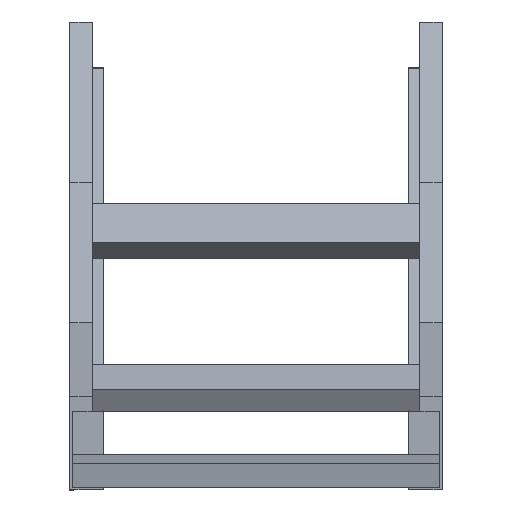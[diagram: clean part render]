
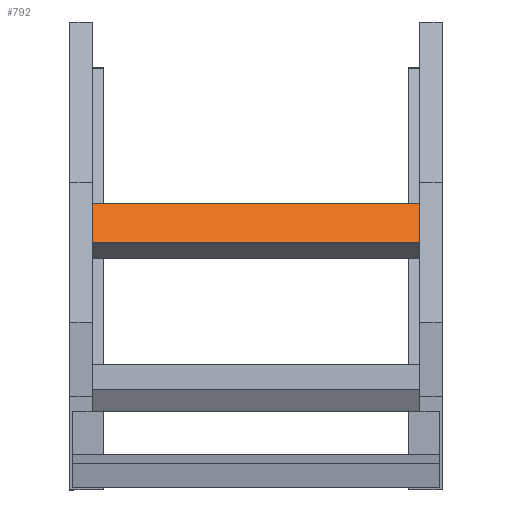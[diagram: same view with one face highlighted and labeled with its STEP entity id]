
A CAD part, top view. The second image highlights one B-rep face of the part: STEP entity #792.
In plain terms, the highlighted planar face has unit normal (0, 0.643, 0.766) as drawn and (0, 1, 0) by its records, which use the part's own axes.
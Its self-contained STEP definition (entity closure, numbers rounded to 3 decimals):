
#10 = DIRECTION ( 'NONE',  ( -1., 0., 0. ) ) ;
#64 = CARTESIAN_POINT ( 'NONE',  ( 148., 20., 20.25 ) ) ;
#120 = EDGE_CURVE ( 'NONE', #953, #543, #509, .T. ) ;
#138 = FACE_OUTER_BOUND ( 'NONE', #353, .T. ) ;
#172 = LINE ( 'NONE', #64, #1293 ) ;
#301 = EDGE_CURVE ( 'NONE', #1117, #1095, #172, .T. ) ;
#336 = DIRECTION ( 'NONE',  ( -1., 0., 0. ) ) ;
#353 = EDGE_LOOP ( 'NONE', ( #1475, #373, #1250, #824 ) ) ;
#373 = ORIENTED_EDGE ( 'NONE', *, *, #811, .F. ) ;
#458 = LINE ( 'NONE', #1526, #1008 ) ;
#484 = CARTESIAN_POINT ( 'NONE',  ( 148., 20., 20.25 ) ) ;
#493 = CARTESIAN_POINT ( 'NONE',  ( -148., 20., 20.25 ) ) ;
#509 = LINE ( 'NONE', #493, #1613 ) ;
#543 = VERTEX_POINT ( 'NONE', #1597 ) ;
#560 = CARTESIAN_POINT ( 'NONE',  ( 148., 20., 20.25 ) ) ;
#663 = LINE ( 'NONE', #1335, #768 ) ;
#690 = PLANE ( 'NONE',  #1515 ) ;
#768 = VECTOR ( 'NONE', #10, 1000. ) ;
#792 = ADVANCED_FACE ( 'NONE', ( #138 ), #690, .F. ) ;
#811 = EDGE_CURVE ( 'NONE', #1095, #543, #663, .T. ) ;
#814 = DIRECTION ( 'NONE',  ( 0., 0., -1. ) ) ;
#824 = ORIENTED_EDGE ( 'NONE', *, *, #945, .T. ) ;
#837 = CARTESIAN_POINT ( 'NONE',  ( 148., 20., -20.25 ) ) ;
#945 = EDGE_CURVE ( 'NONE', #1117, #953, #458, .T. ) ;
#953 = VERTEX_POINT ( 'NONE', #1279 ) ;
#1008 = VECTOR ( 'NONE', #336, 1000. ) ;
#1088 = DIRECTION ( 'NONE',  ( 0., -1., 0. ) ) ;
#1095 = VERTEX_POINT ( 'NONE', #484 ) ;
#1117 = VERTEX_POINT ( 'NONE', #837 ) ;
#1176 = DIRECTION ( 'NONE',  ( 0., 0., 1. ) ) ;
#1250 = ORIENTED_EDGE ( 'NONE', *, *, #301, .F. ) ;
#1279 = CARTESIAN_POINT ( 'NONE',  ( -148., 20., -20.25 ) ) ;
#1293 = VECTOR ( 'NONE', #1487, 1000. ) ;
#1335 = CARTESIAN_POINT ( 'NONE',  ( 148., 20., 20.25 ) ) ;
#1475 = ORIENTED_EDGE ( 'NONE', *, *, #120, .T. ) ;
#1487 = DIRECTION ( 'NONE',  ( 0., 0., 1. ) ) ;
#1515 = AXIS2_PLACEMENT_3D ( 'NONE', #560, #1088, #814 ) ;
#1526 = CARTESIAN_POINT ( 'NONE',  ( 148., 20., -20.25 ) ) ;
#1597 = CARTESIAN_POINT ( 'NONE',  ( -148., 20., 20.25 ) ) ;
#1613 = VECTOR ( 'NONE', #1176, 1000. ) ;
